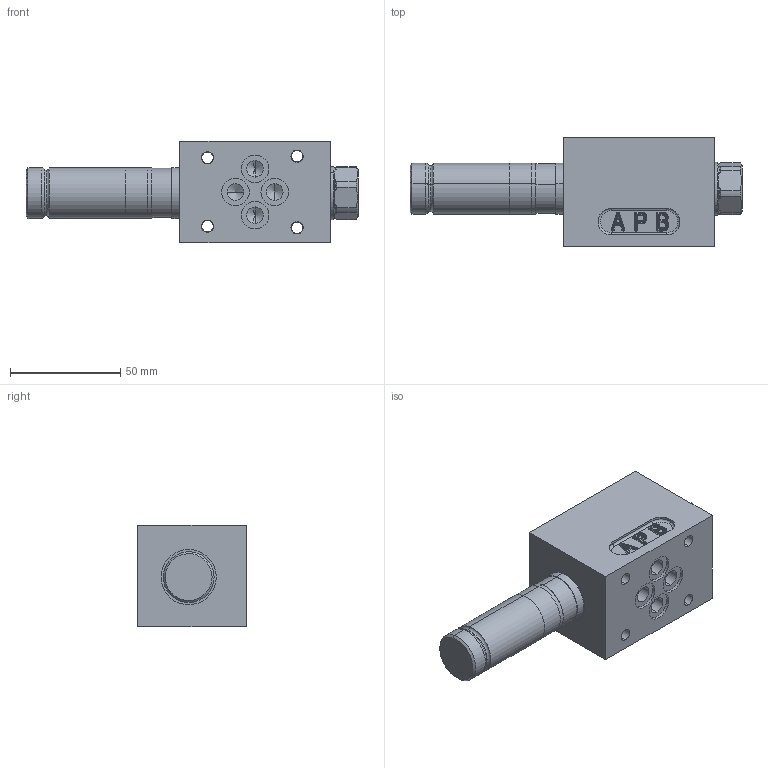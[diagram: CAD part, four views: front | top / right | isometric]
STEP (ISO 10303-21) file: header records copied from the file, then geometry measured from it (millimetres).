
FILE_DESCRIPTION (( 'STEP AP214' ), '1' );
FILE_NAME ('WDMFA06-4_2-Aside.STEP', '2014-07-14T11:25:05', ( '' ), ( '' ), 'SwSTEP 2.0', 'SolidWorks 2014', '' );
FILE_SCHEMA (( 'AUTOMOTIVE_DESIGN' ));
Length unit declared in the file: millimetre
Products named in the file (2): WDMFA06-4_2-Aside
Bounding box: 150.3 x 49 x 46 mm (x, y, z)
Volume: 171094.5 mm3; surface area: 39297.4 mm2
Topology: 10 solids, 10 shells, 619 faces, 1385 edges, 767 vertices
Faces by surface type: cylinder 243, plane 108, torus 97, cone 62, sphere 57, bspline 52
Entity records: 26677 total; most frequent: CARTESIAN_POINT 6233, DIRECTION 3079, ORIENTED_EDGE 2650, EDGE_CURVE 1325, AXIS2_PLACEMENT_3D 1309, VERTEX_POINT 766, CIRCLE 740, EDGE_LOOP 675
